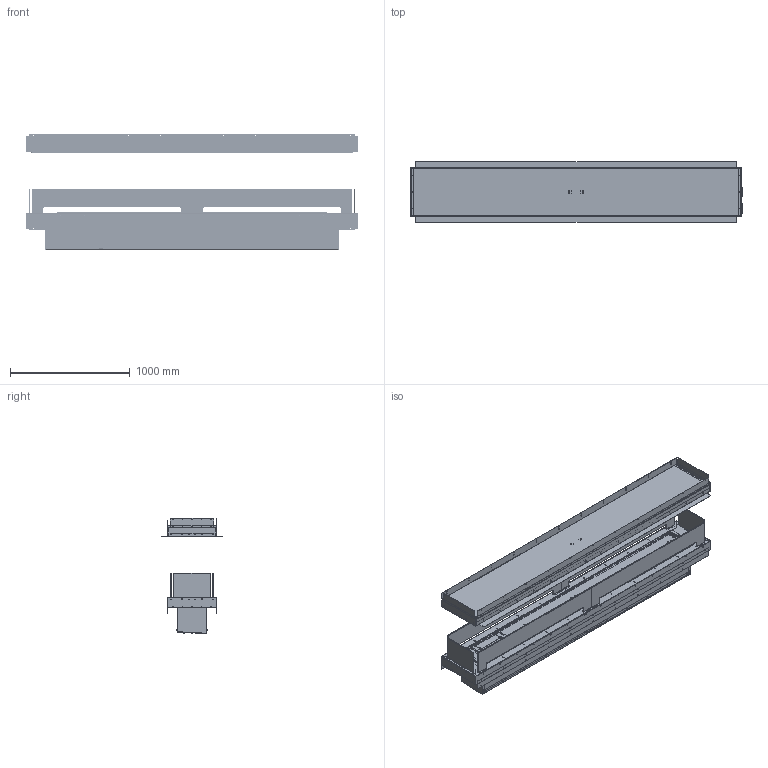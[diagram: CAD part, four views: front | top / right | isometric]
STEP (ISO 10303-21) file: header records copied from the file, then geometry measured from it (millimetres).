
FILE_DESCRIPTION (( 'STEP AP214' ), '1' );
FILE_NAME ('3d_Forma_2700_Island_FLA3.STEP', '2022-05-30T11:12:28', ( '' ), ( '' ), 'SwSTEP 2.0', 'SolidWorks 2019', '' );
FILE_SCHEMA (( 'AUTOMOTIVE_DESIGN' ));
Length unit declared in the file: millimetre
Products named in the file (56): B-000-460; 000060277_000060277_106; B-003-087_B-003-087-2490; 000111255; 000059948_000059948-2490; 000-056-480_000-056-480_106; 000057000_000057000_106; 000-049-266_000-049-266-2490; B-003-090; 000-056-474_000-056-474_106; 000059955; 000064025; 000066241; 000095743; B-003-094; ok1586; 000-049-267_000-049-267-2490; 000059906; 000060313; KEYSTONE 5228; 000100551; ok1585_ok1585-2490; 000064026; PZ-FLA3XT-0003; 000057659_000057659_106; B-003-091_B-003-091-1990; 000111256; 000-049-326_000-049-326-2490; 024-324-324; 000-046-432; Nitonakrêtka bezko³nierzowa_Nitonakr©tka bezkoˆnierzowa M4 (1,5); ok1271-08; 000-049-284; 000-051-004; 000069177; 000057657_000057657_106; 000-049-813; 000057660; 000059785_000059785-2490 WW; 000-050-969_000-050-969-2490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
Assembly tree (134 placements, depth 4):
  3d_Forma_2700_Island_FLA3
    000061618_000061618_106
      000-056-480_000-056-480_106
        000-056-473_000-056-473_106
        000-056-474_000-056-474_106
      000057657_000057657_106
      000057659_000057659_106
      000057660
    000056880_000056880_106  x2
    000056915  x2
    000057000_000057000_106  x2
    000057747_000057747_106  x4
    000060281_000060281_106DSP
      000060275_000060275_106DSP
      000060277_000060277_106
      000060280_000060280_106
      000060313  x2
      000066241  x8
      000069177  x2
      Nitonakrêtka bezko³nierzowa_Nitonakr©tka bezkoˆnierzowa M4 (1,5)  x2
      000111255  x2
    000059785_000059785-2490 WW
      000-049-267_000-049-267-2490
        000-049-266_000-049-266-2490
        Ko³ek gwintowany do zgrzewania_ISO 13918 M4x10  x26
        Nakrêtka wciskana_Sariv S-S M3-3  x6
      000-050-969_000-050-969-2490  x2
      000059948_000059948-2490  x2
      000-049-326_000-049-326-2490
      000-042-826_000-042-826-2490  x2
      000-049-813
        024-324-324
        Ko³ek gwintowany do zgrzewania_ISO 13918 M4x10  x2
      ok1585_ok1585-2490
        B-003-087_B-003-087-2490
        B-003-090  x2
        B-000-460  x6
        B-003-091_B-003-091-1990  x2
        B-003-094  x4
        B-000-462  x8
        000-051-004
        000095743  x2
      000059955
      PZ-FLA3XT-0003
      ok1586
      hex tapping screws_iso_Tapping Screw ISO 14585 - ST4.2 x 9.5-C-N  x2
      000059906
      000-046-432  x4
      000-049-284
      ok1271-08  x4
      KEYSTONE 5228
      000064025
      000064026
      000100551
    000066242
    000111128  x2
    000111256  x2
Bounding box: 2776 x 506 x 964.71 mm (x, y, z)
Volume: 21984364.7 mm3; surface area: 24153766.5 mm2
Topology: 140 solids, 140 shells, 7144 faces, 19190 edges, 12347 vertices
Faces by surface type: cylinder 4047, plane 2726, cone 228, bspline 87, torus 52, sphere 4
Entity records: 151376 total; most frequent: CARTESIAN_POINT 31171, DIRECTION 25735, ORIENTED_EDGE 23446, EDGE_CURVE 11723, AXIS2_PLACEMENT_3D 9806, VERTEX_POINT 7564, EDGE_LOOP 6281, VECTOR 6123
